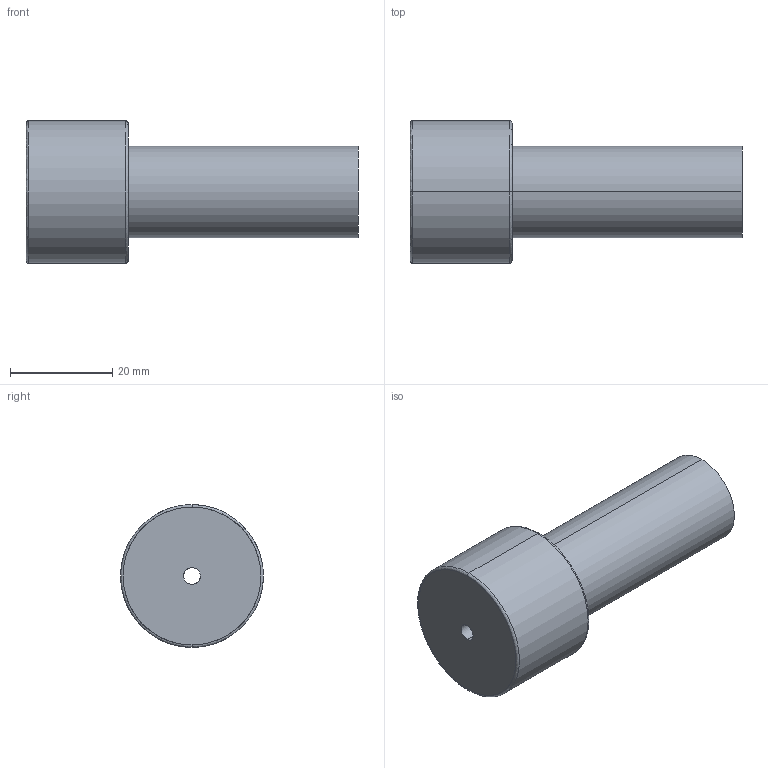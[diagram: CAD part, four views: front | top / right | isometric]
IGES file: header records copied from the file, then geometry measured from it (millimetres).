
Start section: START RECORD GO HERE.
Global section: file name: 367-18X65.igs; native system: DASSAULT SYSTEMES CATIA V5 R20 - www.3ds.com; preprocessor: CATIA Version 5 Release 20 ; author: Utente; organization: NB04-ASUS; date: 20210324.164720; units: millimetre
Bounding box: 65 x 28 x 28 mm (x, y, z)
Surface area: 6475.5 mm2 (no closed solid volume)
Topology: 0 solids, 0 shells, 13 faces, 84 edges, 84 vertices
Faces by surface type: revolution 10, plane 3
